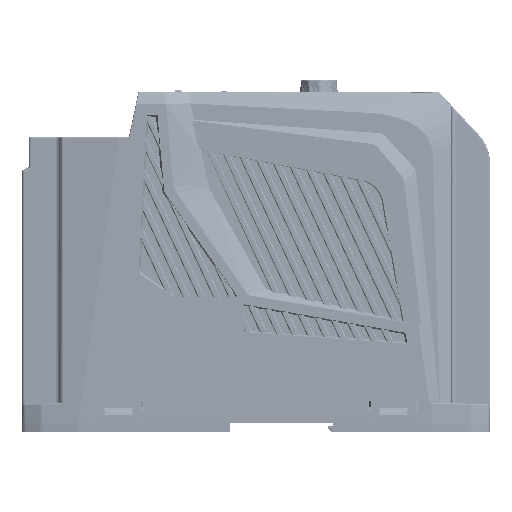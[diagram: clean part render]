
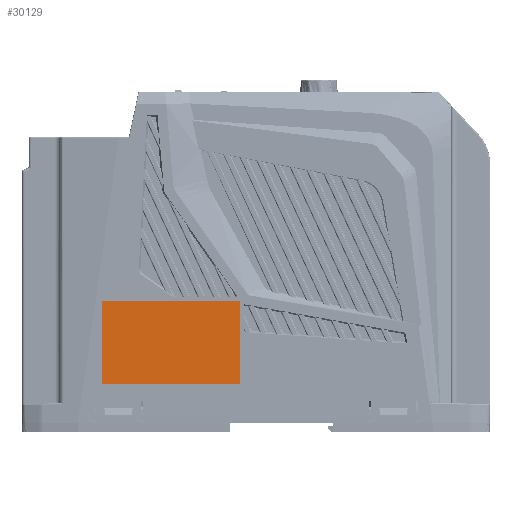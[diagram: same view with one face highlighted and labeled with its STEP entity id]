
A CAD part, left-side view. The second image highlights one B-rep face of the part: STEP entity #30129.
In plain terms, the highlighted planar face has unit normal (-1, 0, 0).
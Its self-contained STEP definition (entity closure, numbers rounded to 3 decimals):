
#30129=ADVANCED_FACE('',(#109741),#109743,.F.);
#109741=FACE_BOUND('',#109742,.T.);
#109742=EDGE_LOOP('',(#198849,#198850,#198851,#198852));
#109743=PLANE('',#109744);
#109744=AXIS2_PLACEMENT_3D('',#109745,#109746,#109747);
#109745=CARTESIAN_POINT('',(-48.7,-81.05,-5.));
#109746=DIRECTION('',(1.,0.,0.));
#109747=DIRECTION('',(0.,1.,0.));
#198849=ORIENTED_EDGE('',*,*,#237136,.T.);
#198850=ORIENTED_EDGE('',*,*,#237137,.T.);
#198851=ORIENTED_EDGE('',*,*,#237061,.T.);
#198852=ORIENTED_EDGE('',*,*,#237065,.T.);
#237061=EDGE_CURVE('',#265612,#265613,#265614,.T.);
#237065=EDGE_CURVE('',#265613,#265617,#265619,.T.);
#237136=EDGE_CURVE('',#265617,#265760,#265761,.T.);
#237137=EDGE_CURVE('',#265760,#265612,#265762,.T.);
#265612=VERTEX_POINT('',#349060);
#265613=VERTEX_POINT('',#349061);
#265614=LINE('',#349062,#349063);
#265617=VERTEX_POINT('',#349071);
#265619=LINE('',#349075,#349076);
#265760=VERTEX_POINT('',#349359);
#265761=LINE('',#349360,#349361);
#265762=LINE('',#349363,#349364);
#349060=CARTESIAN_POINT('',(-48.7,5.7,9.));
#349061=CARTESIAN_POINT('',(-48.7,5.7,39.3));
#349062=CARTESIAN_POINT('',(-48.7,5.7,9.));
#349063=VECTOR('',#349064,1.);
#349064=DIRECTION('',(0.,0.,1.));
#349071=CARTESIAN_POINT('',(-48.7,56.,39.3));
#349075=CARTESIAN_POINT('',(-48.7,5.7,39.3));
#349076=VECTOR('',#349077,1.);
#349077=DIRECTION('',(0.,1.,0.));
#349359=CARTESIAN_POINT('',(-48.7,56.,9.));
#349360=CARTESIAN_POINT('',(-48.7,56.,39.3));
#349361=VECTOR('',#349362,1.);
#349362=DIRECTION('',(0.,0.,-1.));
#349363=CARTESIAN_POINT('',(-48.7,56.,9.));
#349364=VECTOR('',#349365,1.);
#349365=DIRECTION('',(0.,-1.,0.));
